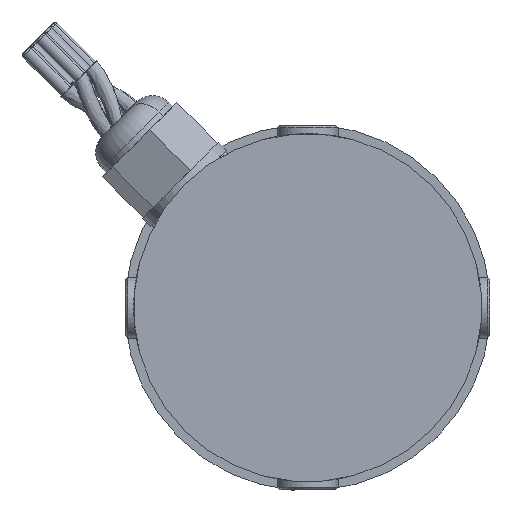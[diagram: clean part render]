
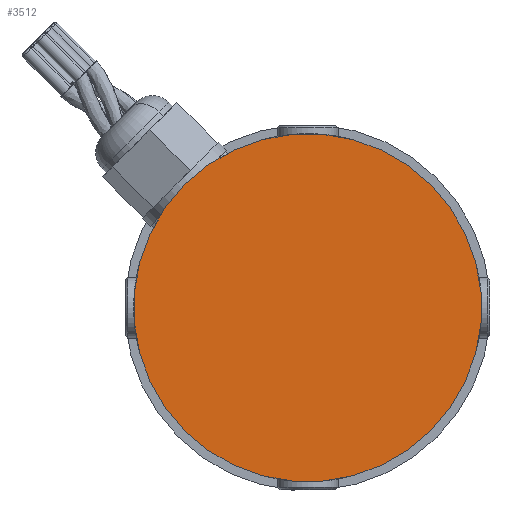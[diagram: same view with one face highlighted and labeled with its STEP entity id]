
A CAD part, left-side view. The second image highlights one B-rep face of the part: STEP entity #3512.
In plain terms, the highlighted planar face has unit normal (-1, 0, 0).
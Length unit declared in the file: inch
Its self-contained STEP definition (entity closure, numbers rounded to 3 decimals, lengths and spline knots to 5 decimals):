
#120 = AXIS2_PLACEMENT_3D ( 'NONE', #11413, #9121, #4551 ) ;
#1110 = PLANE ( 'NONE',  #120 ) ;
#1630 = CIRCLE ( 'NONE', #8020, 1.51594 ) ;
#1954 = DIRECTION ( 'NONE',  ( 0., -0.707, 0.707 ) ) ;
#2112 = DIRECTION ( 'NONE',  ( 1., 0., 0. ) ) ;
#2394 = EDGE_CURVE ( 'NONE', #11097, #3608, #1630, .T. ) ;
#2870 = EDGE_LOOP ( 'NONE', ( #10699, #5640 ) ) ;
#3417 = DIRECTION ( 'NONE',  ( 0., -0.707, 0.707 ) ) ;
#3512 = ADVANCED_FACE ( 'NONE', ( #12429 ), #1110, .F. ) ;
#3608 = VERTEX_POINT ( 'NONE', #12732 ) ;
#4551 = DIRECTION ( 'NONE',  ( 0., -0.707, 0.707 ) ) ;
#4731 = EDGE_CURVE ( 'NONE', #3608, #11097, #8483, .T. ) ;
#5640 = ORIENTED_EDGE ( 'NONE', *, *, #4731, .F. ) ;
#6394 = DIRECTION ( 'NONE',  ( 1., 0., 0. ) ) ;
#7540 = CARTESIAN_POINT ( 'NONE',  ( -2.13486, 3.00682, 6.0551 ) ) ;
#8020 = AXIS2_PLACEMENT_3D ( 'NONE', #14630, #2112, #3417 ) ;
#8483 = CIRCLE ( 'NONE', #11218, 1.51594 ) ;
#9045 = CARTESIAN_POINT ( 'NONE',  ( -2.13486, 4.07875, 4.98317 ) ) ;
#9121 = DIRECTION ( 'NONE',  ( 1., 0., 0. ) ) ;
#10699 = ORIENTED_EDGE ( 'NONE', *, *, #2394, .F. ) ;
#11097 = VERTEX_POINT ( 'NONE', #9045 ) ;
#11218 = AXIS2_PLACEMENT_3D ( 'NONE', #7540, #6394, #1954 ) ;
#11413 = CARTESIAN_POINT ( 'NONE',  ( -2.13486, 3.00682, 6.0551 ) ) ;
#12429 = FACE_OUTER_BOUND ( 'NONE', #2870, .T. ) ;
#12732 = CARTESIAN_POINT ( 'NONE',  ( -2.13486, 1.93488, 7.12704 ) ) ;
#14630 = CARTESIAN_POINT ( 'NONE',  ( -2.13486, 3.00682, 6.0551 ) ) ;
